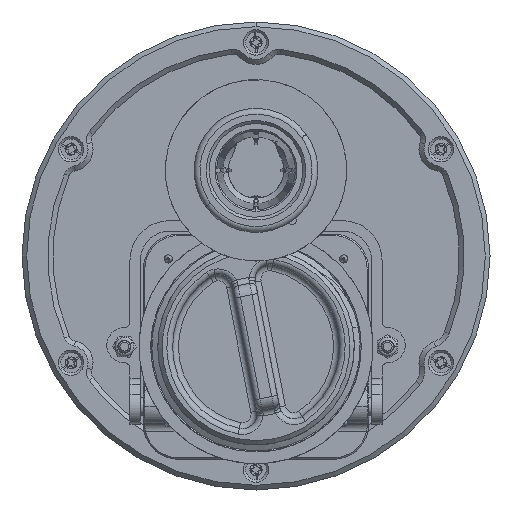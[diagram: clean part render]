
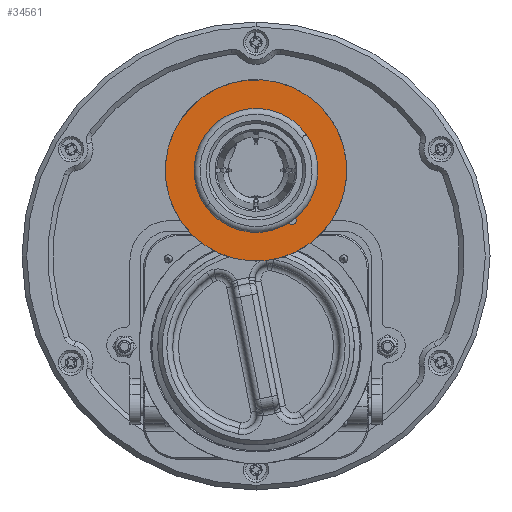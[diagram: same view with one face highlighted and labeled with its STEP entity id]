
A CAD part, front view. The second image highlights one B-rep face of the part: STEP entity #34561.
In plain terms, the highlighted planar face has unit normal (0, -1, 0).
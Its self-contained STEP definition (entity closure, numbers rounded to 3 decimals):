
#603 = DIRECTION ( 'NONE',  ( 0., 1., 0. ) ) ;
#982 = ORIENTED_EDGE ( 'NONE', *, *, #16878, .F. ) ;
#1054 = AXIS2_PLACEMENT_3D ( 'NONE', #9625, #603, #3658 ) ;
#1099 = VERTEX_POINT ( 'NONE', #21145 ) ;
#1649 = CIRCLE ( 'NONE', #6554, 1.5 ) ;
#1710 = DIRECTION ( 'NONE',  ( 0., 0., -1. ) ) ;
#3097 = VERTEX_POINT ( 'NONE', #29241 ) ;
#3572 = ORIENTED_EDGE ( 'NONE', *, *, #17408, .T. ) ;
#3658 = DIRECTION ( 'NONE',  ( 0., 0., -1. ) ) ;
#3856 = AXIS2_PLACEMENT_3D ( 'NONE', #34465, #5301, #10497 ) ;
#4442 = EDGE_CURVE ( 'NONE', #14157, #7715, #16108, .T. ) ;
#5161 = DIRECTION ( 'NONE',  ( 0., 1., 0. ) ) ;
#5301 = DIRECTION ( 'NONE',  ( 0., 1., 0. ) ) ;
#5794 = CIRCLE ( 'NONE', #3856, 1.5 ) ;
#5886 = CIRCLE ( 'NONE', #37896, 20.5 ) ;
#6554 = AXIS2_PLACEMENT_3D ( 'NONE', #13225, #5161, #1710 ) ;
#6836 = EDGE_CURVE ( 'NONE', #1099, #7689, #5794, .T. ) ;
#7232 = PLANE ( 'NONE',  #16217 ) ;
#7689 = VERTEX_POINT ( 'NONE', #16274 ) ;
#7715 = VERTEX_POINT ( 'NONE', #31179 ) ;
#7786 = CIRCLE ( 'NONE', #1054, 20.5 ) ;
#7814 = AXIS2_PLACEMENT_3D ( 'NONE', #27004, #18727, #21790 ) ;
#7940 = ORIENTED_EDGE ( 'NONE', *, *, #4442, .F. ) ;
#8200 = EDGE_CURVE ( 'NONE', #29618, #3097, #24443, .T. ) ;
#8794 = CARTESIAN_POINT ( 'NONE',  ( 0., 89.5, 31. ) ) ;
#9625 = CARTESIAN_POINT ( 'NONE',  ( 0., 89.5, 0. ) ) ;
#10130 = FACE_BOUND ( 'NONE', #17959, .T. ) ;
#10497 = DIRECTION ( 'NONE',  ( 0., 0., -1. ) ) ;
#10579 = AXIS2_PLACEMENT_3D ( 'NONE', #15460, #36197, #32904 ) ;
#10627 = CARTESIAN_POINT ( 'NONE',  ( -20.452, 89.5, -1.396 ) ) ;
#11628 = CARTESIAN_POINT ( 'NONE',  ( 0., 89.5, 0. ) ) ;
#12475 = ORIENTED_EDGE ( 'NONE', *, *, #19345, .T. ) ;
#13225 = CARTESIAN_POINT ( 'NONE',  ( -21., 89.5, 0. ) ) ;
#14157 = VERTEX_POINT ( 'NONE', #8794 ) ;
#15318 = ORIENTED_EDGE ( 'NONE', *, *, #8200, .T. ) ;
#15460 = CARTESIAN_POINT ( 'NONE',  ( 0., 89.5, 0. ) ) ;
#15687 = DIRECTION ( 'NONE',  ( 0., -1., 0. ) ) ;
#16108 = CIRCLE ( 'NONE', #10579, 31. ) ;
#16217 = AXIS2_PLACEMENT_3D ( 'NONE', #33517, #15687, #18616 ) ;
#16274 = CARTESIAN_POINT ( 'NONE',  ( -20.452, 89.5, 1.396 ) ) ;
#16878 = EDGE_CURVE ( 'NONE', #7715, #14157, #23060, .T. ) ;
#17408 = EDGE_CURVE ( 'NONE', #37906, #29618, #7786, .T. ) ;
#17516 = AXIS2_PLACEMENT_3D ( 'NONE', #11628, #25913, #34889 ) ;
#17622 = EDGE_CURVE ( 'NONE', #3097, #1099, #1649, .T. ) ;
#17959 = EDGE_LOOP ( 'NONE', ( #15318, #31587, #36257, #27623, #12475, #3572 ) ) ;
#18616 = DIRECTION ( 'NONE',  ( 0., 0., -1. ) ) ;
#18727 = DIRECTION ( 'NONE',  ( 0., 1., 0. ) ) ;
#19345 = EDGE_CURVE ( 'NONE', #30892, #37906, #5886, .T. ) ;
#19435 = CARTESIAN_POINT ( 'NONE',  ( 0., 89.5, -20.5 ) ) ;
#20609 = DIRECTION ( 'NONE',  ( 0., 0., -1. ) ) ;
#21145 = CARTESIAN_POINT ( 'NONE',  ( -21., 89.5, 1.5 ) ) ;
#21646 = EDGE_LOOP ( 'NONE', ( #7940, #982 ) ) ;
#21790 = DIRECTION ( 'NONE',  ( 0., 0., -1. ) ) ;
#21874 = FACE_OUTER_BOUND ( 'NONE', #21646, .T. ) ;
#23060 = CIRCLE ( 'NONE', #17516, 31. ) ;
#23288 = CARTESIAN_POINT ( 'NONE',  ( 0., 89.5, 20.5 ) ) ;
#24095 = AXIS2_PLACEMENT_3D ( 'NONE', #30095, #27168, #20609 ) ;
#24443 = CIRCLE ( 'NONE', #7814, 1.5 ) ;
#25913 = DIRECTION ( 'NONE',  ( 0., 1., 0. ) ) ;
#26635 = EDGE_CURVE ( 'NONE', #7689, #30892, #35839, .T. ) ;
#27004 = CARTESIAN_POINT ( 'NONE',  ( -21., 89.5, 0. ) ) ;
#27168 = DIRECTION ( 'NONE',  ( 0., 1., 0. ) ) ;
#27623 = ORIENTED_EDGE ( 'NONE', *, *, #26635, .T. ) ;
#29220 = DIRECTION ( 'NONE',  ( 0., 1., 0. ) ) ;
#29241 = CARTESIAN_POINT ( 'NONE',  ( -21., 89.5, -1.5 ) ) ;
#29618 = VERTEX_POINT ( 'NONE', #10627 ) ;
#29787 = DIRECTION ( 'NONE',  ( 0., 0., -1. ) ) ;
#30095 = CARTESIAN_POINT ( 'NONE',  ( 0., 89.5, 0. ) ) ;
#30892 = VERTEX_POINT ( 'NONE', #23288 ) ;
#31179 = CARTESIAN_POINT ( 'NONE',  ( 0., 89.5, -31. ) ) ;
#31587 = ORIENTED_EDGE ( 'NONE', *, *, #17622, .T. ) ;
#32131 = CARTESIAN_POINT ( 'NONE',  ( 0., 89.5, 0. ) ) ;
#32904 = DIRECTION ( 'NONE',  ( 0., 0., 1. ) ) ;
#33517 = CARTESIAN_POINT ( 'NONE',  ( 0., 89.5, 31. ) ) ;
#34465 = CARTESIAN_POINT ( 'NONE',  ( -21., 89.5, 0. ) ) ;
#34561 = ADVANCED_FACE ( 'NONE', ( #10130, #21874 ), #7232, .T. ) ;
#34889 = DIRECTION ( 'NONE',  ( 0., 0., 1. ) ) ;
#35839 = CIRCLE ( 'NONE', #24095, 20.5 ) ;
#36197 = DIRECTION ( 'NONE',  ( 0., 1., 0. ) ) ;
#36257 = ORIENTED_EDGE ( 'NONE', *, *, #6836, .T. ) ;
#37896 = AXIS2_PLACEMENT_3D ( 'NONE', #32131, #29220, #29787 ) ;
#37906 = VERTEX_POINT ( 'NONE', #19435 ) ;
